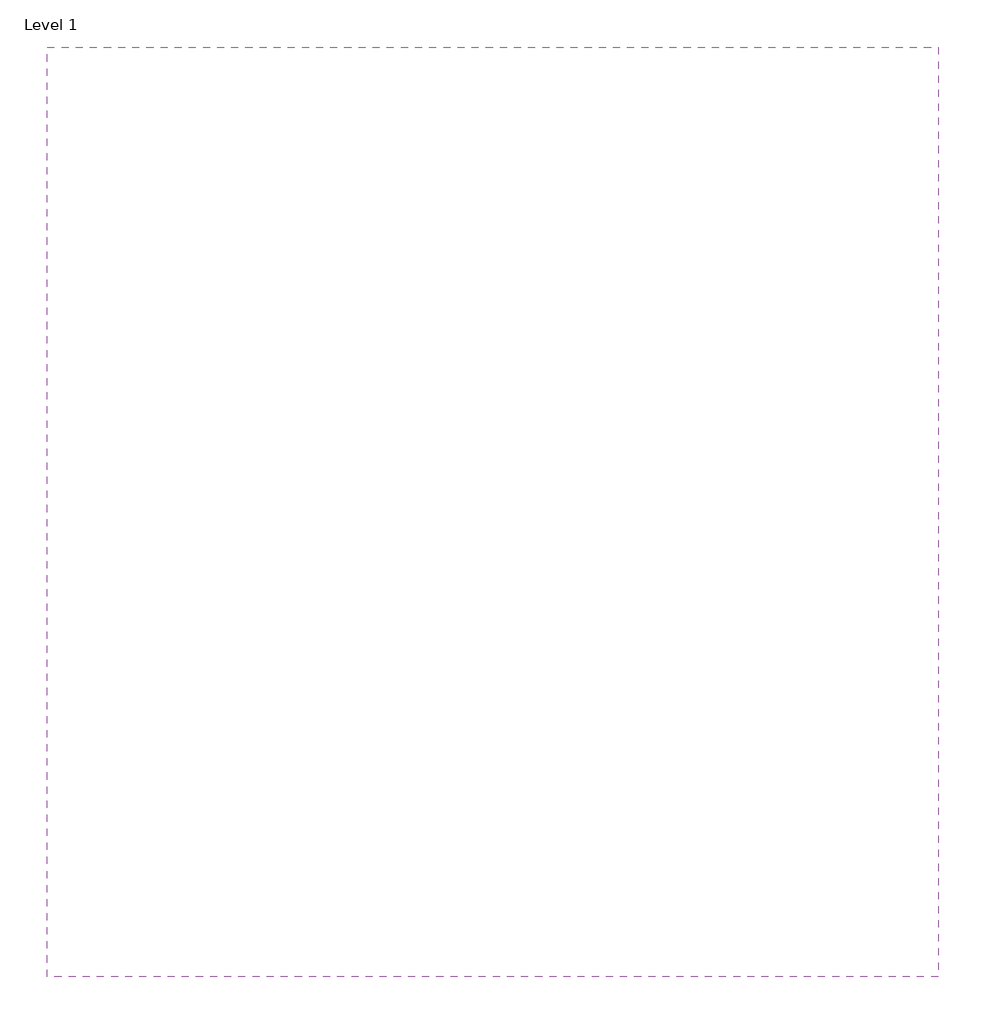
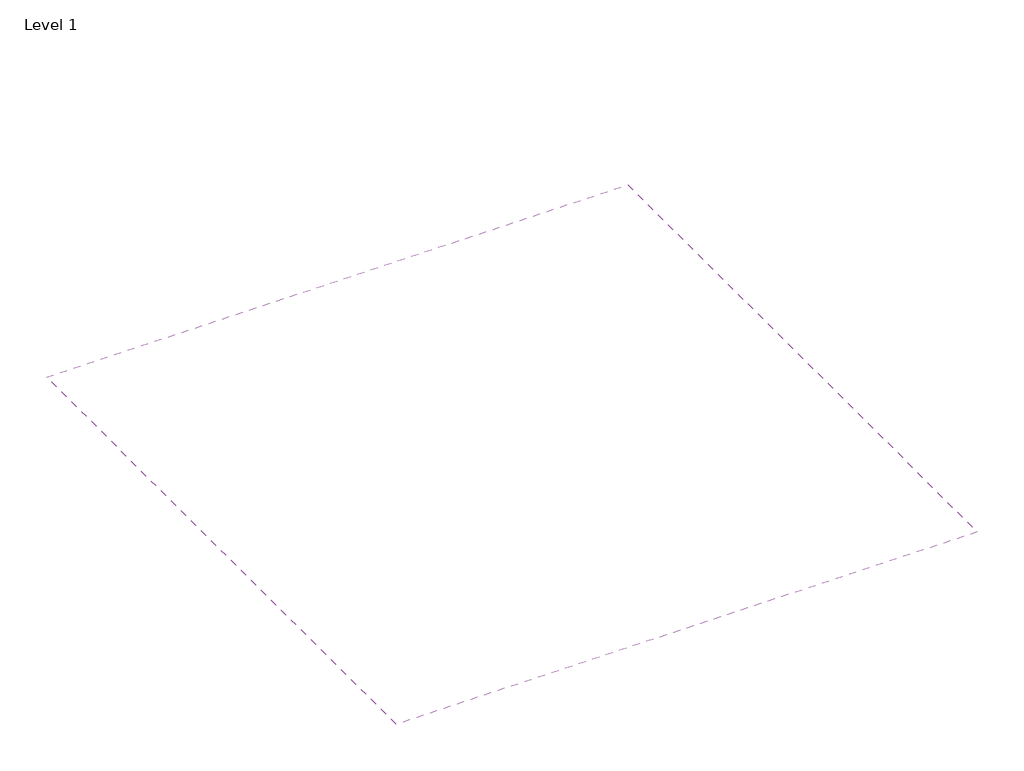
# One storey: 1 covering.
"""IFC4 building model written with IfcOpenShell, lengths in millimetres."""

from ifc_helpers import new_model, si_unit, frame, origin, place, context, project, spatial, polyline, outline, extrude, element, save

model = new_model("IFC4")

# Units and contexts
model_context = context("Model", 3, world=origin())
ifc_project = project(units=[si_unit("LENGTHUNIT", "METRE", prefix="MILLI")], contexts=[model_context])

# Site, building, storey
site = spatial("IfcSite", under=ifc_project)
building = spatial("IfcBuilding", under=site)
storey = spatial("IfcBuildingStorey", under=building, Name="Level 1", Elevation=0.0)

# Covering
placement = place(None, origin())
element("IfcCovering", 1, ObjectType="Gyptone Activ'Air Quattro 20 Borde oculto, 600x600x9,5 mm", at=placement, inside=storey, context=model_context, shape_type="SweptSolid", body=[
    extrude(outline(polyline([(-5115.2715037, -11368.9305732), (-6055.2715037, -11368.9305732), (-6055.2715037, -10388.9305732), (-5115.2715037, -10388.9305732), (-5115.2715037, -11368.9305732)])), frame((0.0, 0.0, 2600.0), z_axis=(0.0, 0.0, 1.0), x_axis=(1.0, 0.0, 0.0)), (0.0, 0.0, 1.0), 236.5),
])

save(model, "model.ifc")
